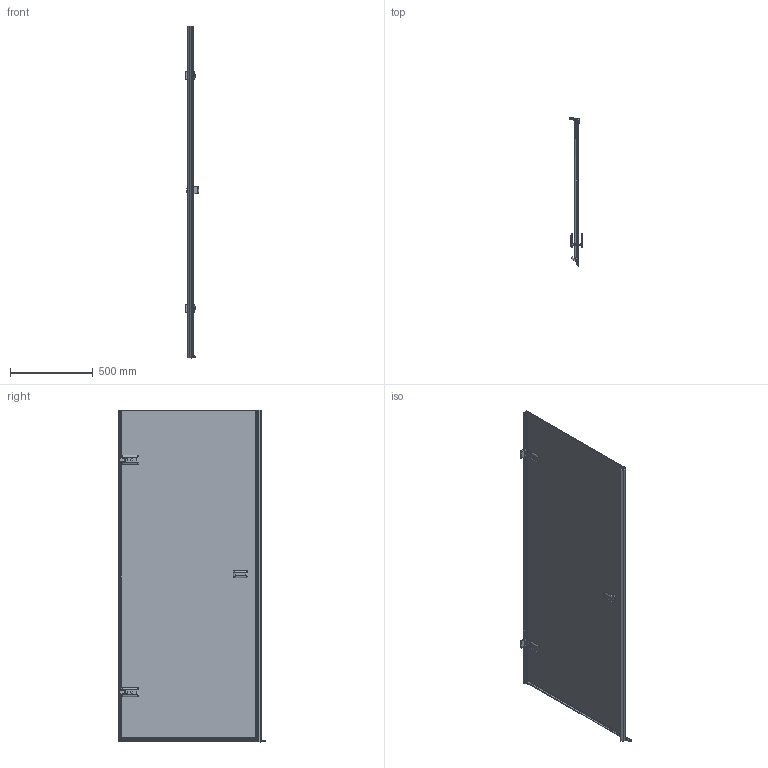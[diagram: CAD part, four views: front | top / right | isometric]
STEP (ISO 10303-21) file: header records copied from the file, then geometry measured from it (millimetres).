
FILE_DESCRIPTION(/* description */ (''),/* implementation_level */ '2;1');
FILE_NAME(/* name */ 'D:\4\888\TREND DOOR GK-861G45A\TREND DOOR GK-861G45A правая модель\TREND DOOR GK-861G45A ПРАВАЯ-3D.stp',/* time_stamp */ '2018-03-23T12:07:22+03:00',/* author */ ('ChechurovS'),/* organization */ (''),/* preprocessor_version */ 'ST-DEVELOPER v15.2',/* originating_system */ 'Autodesk Inventor 2014',/* authorisation */ '');
FILE_SCHEMA (('CONFIG_CONTROL_DESIGN'));
Length unit declared in the file: millimetre
Products named in the file (1): TREND DOOR GK-861G45A ПРАВАЯ-
3D
Bounding box: 81.5 x 888.8 x 2000 mm (x, y, z)
Volume: 11394822.5 mm3; surface area: 3966858.6 mm2
Topology: 3 solids, 3 shells, 852 faces, 2252 edges, 1383 vertices
Faces by surface type: plane 527, cylinder 251, bspline 50, torus 20, sphere 4
Full cylindrical faces by diameter (mm): 12 x2
Entity records: 29624 total; most frequent: CARTESIAN_POINT 7667, ORIENTED_EDGE 4446, DIRECTION 4319, EDGE_CURVE 2221, LINE 1547, VECTOR 1547, AXIS2_PLACEMENT_3D 1386, VERTEX_POINT 1383
